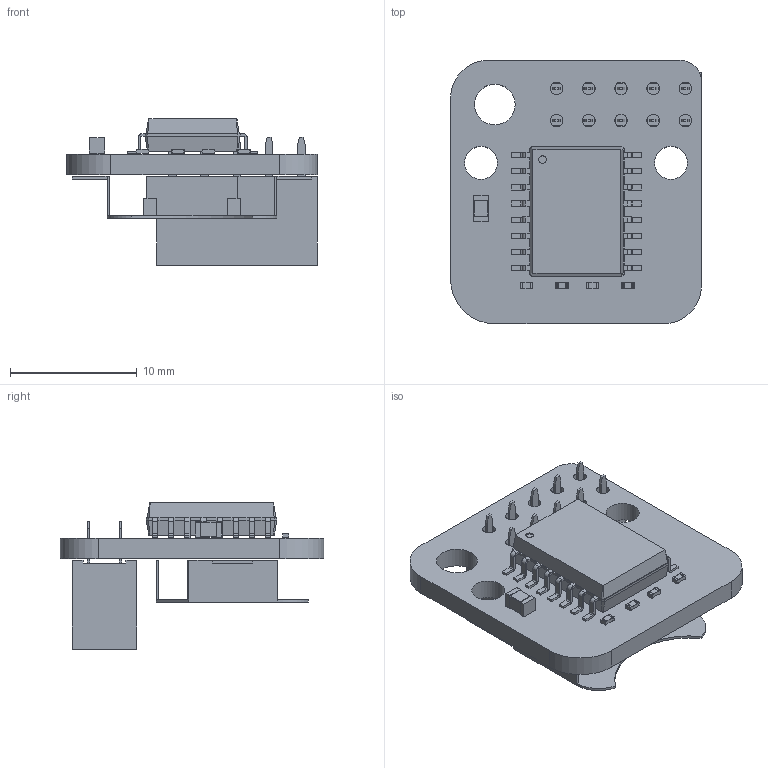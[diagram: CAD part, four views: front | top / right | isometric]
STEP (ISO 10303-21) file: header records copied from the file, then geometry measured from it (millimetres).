
FILE_DESCRIPTION(('KiCad electronic assembly'),'2;1');
FILE_NAME('KAmodRPI_RTC.step','2024-10-21T11:54:41',('Pcbnew'),('Kicad') ,'Open CASCADE STEP processor 7.8','KiCad to STEP converter','Unknown' );
FILE_SCHEMA(('AUTOMOTIVE_DESIGN { 1 0 10303 214 1 1 1 1 }'));
Length unit declared in the file: millimetre
Products named in the file (12): KAmodRPI_RTC 1; PinSocket_2x05_P2.54mm_Vertical; PinSocket_2x05_P254mm_Vertical; R_0402_1005Metric; C_0805_2012Metric; SOIC-16W_7.5x10.3mm_P1.27mm; SOIC_16W_75x103mm_P127mm; BatteryHolder_Keystone_3000_1x12mm; Keystone_3000_1x12mm; KAmodRPI_RTC_PCB
Assembly tree (14 placements, depth 3):
  KAmodRPI_RTC 1
    PinSocket_2x05_P2.54mm_Vertical
      PinSocket_2x05_P254mm_Vertical
    R_0402_1005Metric  x4
      R_0402_1005Metric
    C_0805_2012Metric
      C_0805_2012Metric
    SOIC-16W_7.5x10.3mm_P1.27mm
      SOIC_16W_75x103mm_P127mm
    BatteryHolder_Keystone_3000_1x12mm
      Keystone_3000_1x12mm
    KAmodRPI_RTC_PCB
Bounding box: 19.8 x 20.8 x 11.55 mm (x, y, z)
Volume: 1263.5 mm3; surface area: 2293.8 mm2
Topology: 10 solids, 10 shells, 834 faces, 2193 edges, 1412 vertices
Faces by surface type: plane 657, cylinder 137, bspline 40
Full cylindrical faces by diameter (mm): 0.6 x1, 1 x10, 1.19 x2, 2.6 x2, 3.2 x1
Entity records: 28266 total; most frequent: CARTESIAN_POINT 4192, ORIENTED_EDGE 3978, DIRECTION 3649, EDGE_CURVE 1989, LINE 1727, VECTOR 1727, VERTEX_POINT 1280, AXIS2_PLACEMENT_3D 961
